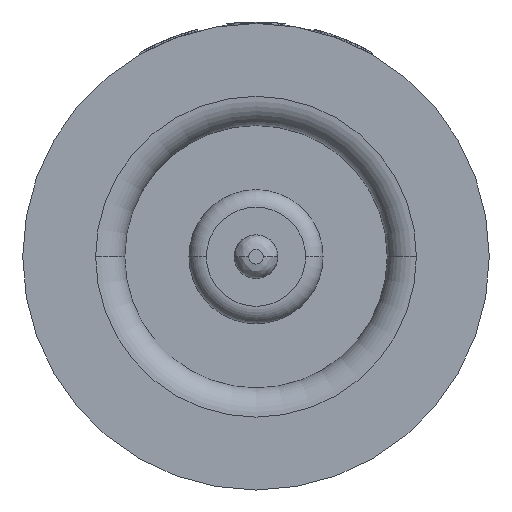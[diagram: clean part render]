
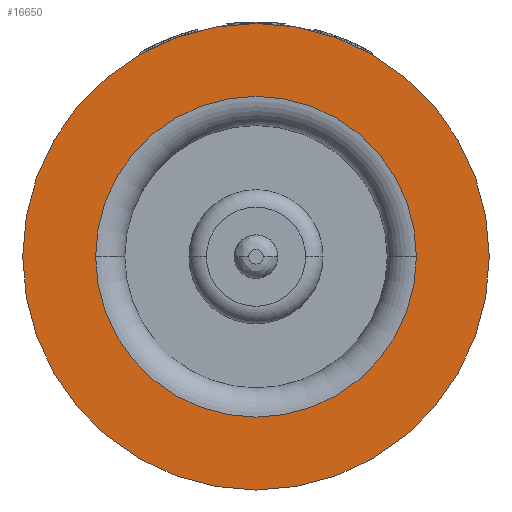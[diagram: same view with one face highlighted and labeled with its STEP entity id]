
A CAD part, left-side view. The second image highlights one B-rep face of the part: STEP entity #16650.
In plain terms, the highlighted planar face has unit normal (-1, 0, 0).
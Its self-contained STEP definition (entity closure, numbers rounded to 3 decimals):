
#16=CARTESIAN_POINT('',(0.,0.,0.));
#17=DIRECTION('',(-1.,0.,0.));
#18=DIRECTION('',(0.,1.,0.));
#19=AXIS2_PLACEMENT_3D('',#16,#17,#18);
#25=CARTESIAN_POINT('',(0.,0.,0.));
#26=DIRECTION('',(1.,0.,0.));
#27=DIRECTION('',(0.,1.,0.));
#28=AXIS2_PLACEMENT_3D('',#25,#26,#27);
#33=CARTESIAN_POINT('',(0.,0.,0.));
#34=DIRECTION('',(-1.,0.,0.));
#35=DIRECTION('',(0.,1.,0.));
#36=AXIS2_PLACEMENT_3D('',#33,#34,#35);
#41=CARTESIAN_POINT('',(0.,0.,0.));
#42=DIRECTION('',(-1.,0.,0.));
#43=DIRECTION('',(0.,-1.,0.));
#44=AXIS2_PLACEMENT_3D('',#41,#42,#43);
#14893=CARTESIAN_POINT('',(0.,4.,0.));
#14895=VERTEX_POINT('',#14893);
#14913=CARTESIAN_POINT('',(0.,-4.,0.));
#14915=VERTEX_POINT('',#14913);
#14924=CARTESIAN_POINT('',(0.,2.75,0.));
#14925=CARTESIAN_POINT('',(0.,-2.75,0.));
#14926=VERTEX_POINT('',#14924);
#14927=VERTEX_POINT('',#14925);
#16633=CARTESIAN_POINT('',(0.,0.,0.));
#16634=DIRECTION('',(-1.,0.,0.));
#16635=DIRECTION('',(0.,1.,0.));
#16636=AXIS2_PLACEMENT_3D('',#16633,#16634,#16635);
#16637=PLANE('',#16636);
#16639=ORIENTED_EDGE('',*,*,#16638,.F.);
#16641=ORIENTED_EDGE('',*,*,#16640,.T.);
#16642=EDGE_LOOP('',(#16639,#16641));
#16643=FACE_OUTER_BOUND('',#16642,.F.);
#16645=ORIENTED_EDGE('',*,*,#16644,.T.);
#16647=ORIENTED_EDGE('',*,*,#16646,.T.);
#16648=EDGE_LOOP('',(#16645,#16647));
#16649=FACE_BOUND('',#16648,.F.);
#16650=ADVANCED_FACE('',(#16643,#16649),#16637,.T.);
#20=CIRCLE('',#19,4.);
#29=CIRCLE('',#28,4.);
#37=CIRCLE('',#36,2.75);
#45=CIRCLE('',#44,2.75);
#16638=EDGE_CURVE('',#14895,#14915,#20,.T.);
#16640=EDGE_CURVE('',#14895,#14915,#29,.T.);
#16644=EDGE_CURVE('',#14926,#14927,#37,.T.);
#16646=EDGE_CURVE('',#14927,#14926,#45,.T.);
